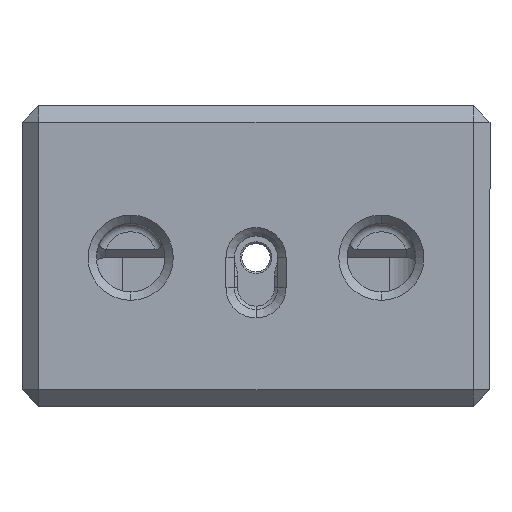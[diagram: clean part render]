
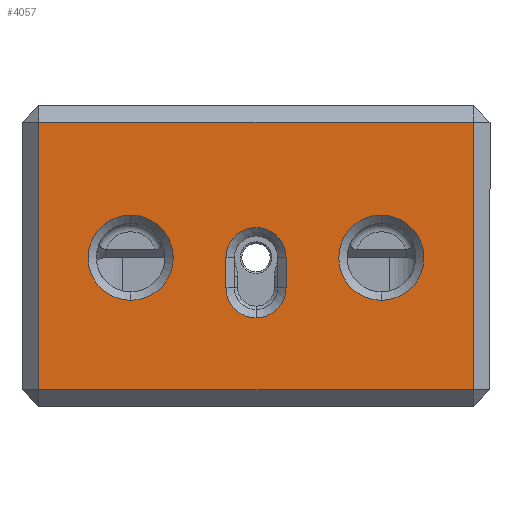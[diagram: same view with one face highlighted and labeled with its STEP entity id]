
A CAD part, front view. The second image highlights one B-rep face of the part: STEP entity #4057.
In plain terms, the highlighted planar face has unit normal (0, -1, 0).
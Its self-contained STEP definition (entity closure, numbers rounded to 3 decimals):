
#6 = DIRECTION ( 'NONE',  ( -1., 0., 0. ) ) ;
#51 = ORIENTED_EDGE ( 'NONE', *, *, #196, .T. ) ;
#55 = EDGE_CURVE ( 'NONE', #3820, #4088, #3429, .T. ) ;
#95 = VERTEX_POINT ( 'NONE', #1139 ) ;
#176 = VECTOR ( 'NONE', #373, 1000. ) ;
#194 = EDGE_LOOP ( 'NONE', ( #3144, #4048 ) ) ;
#196 = EDGE_CURVE ( 'NONE', #1790, #1420, #542, .T. ) ;
#217 = DIRECTION ( 'NONE',  ( 0., 0., 1. ) ) ;
#273 = FACE_BOUND ( 'NONE', #194, .T. ) ;
#336 = CARTESIAN_POINT ( 'NONE',  ( 0., -48., 0.9 ) ) ;
#352 = CARTESIAN_POINT ( 'NONE',  ( -14., -48., 9. ) ) ;
#373 = DIRECTION ( 'NONE',  ( 0., 0., -1. ) ) ;
#374 = DIRECTION ( 'NONE',  ( 0., 1., 0. ) ) ;
#428 = CIRCLE ( 'NONE', #3109, 1.8 ) ;
#445 = CARTESIAN_POINT ( 'NONE',  ( 14., -48., -7. ) ) ;
#479 = LINE ( 'NONE', #2540, #1974 ) ;
#542 = LINE ( 'NONE', #1858, #1356 ) ;
#665 = DIRECTION ( 'NONE',  ( 0., 0., -1. ) ) ;
#671 = AXIS2_PLACEMENT_3D ( 'NONE', #1004, #2056, #720 ) ;
#707 = DIRECTION ( 'NONE',  ( 0., 0., -1. ) ) ;
#720 = DIRECTION ( 'NONE',  ( 0., 0., -1. ) ) ;
#807 = DIRECTION ( 'NONE',  ( 1., 0., 0. ) ) ;
#821 = LINE ( 'NONE', #352, #2616 ) ;
#822 = EDGE_LOOP ( 'NONE', ( #2253, #1437 ) ) ;
#887 = DIRECTION ( 'NONE',  ( 0., 0., 1. ) ) ;
#944 = DIRECTION ( 'NONE',  ( 0., 0., -1. ) ) ;
#997 = AXIS2_PLACEMENT_3D ( 'NONE', #2736, #2357, #3093 ) ;
#1004 = CARTESIAN_POINT ( 'NONE',  ( 7.5, -48., 0.9 ) ) ;
#1072 = VECTOR ( 'NONE', #4095, 1000. ) ;
#1116 = VERTEX_POINT ( 'NONE', #3007 ) ;
#1139 = CARTESIAN_POINT ( 'NONE',  ( 1.8, -48., -0.9 ) ) ;
#1258 = VERTEX_POINT ( 'NONE', #1648 ) ;
#1308 = VECTOR ( 'NONE', #807, 1000. ) ;
#1326 = VERTEX_POINT ( 'NONE', #2930 ) ;
#1341 = CARTESIAN_POINT ( 'NONE',  ( 1.8, -48., 0. ) ) ;
#1356 = VECTOR ( 'NONE', #217, 1000. ) ;
#1368 = CARTESIAN_POINT ( 'NONE',  ( -7.5, -48., 0.9 ) ) ;
#1401 = EDGE_CURVE ( 'NONE', #1258, #2928, #3688, .T. ) ;
#1420 = VERTEX_POINT ( 'NONE', #2327 ) ;
#1437 = ORIENTED_EDGE ( 'NONE', *, *, #1401, .T. ) ;
#1448 = AXIS2_PLACEMENT_3D ( 'NONE', #1995, #2322, #2337 ) ;
#1581 = AXIS2_PLACEMENT_3D ( 'NONE', #1368, #374, #707 ) ;
#1586 = ORIENTED_EDGE ( 'NONE', *, *, #2522, .T. ) ;
#1648 = CARTESIAN_POINT ( 'NONE',  ( 7.5, -48., 3.45 ) ) ;
#1690 = DIRECTION ( 'NONE',  ( 0., 1., 0. ) ) ;
#1691 = PLANE ( 'NONE',  #1448 ) ;
#1714 = FACE_BOUND ( 'NONE', #3984, .T. ) ;
#1790 = VERTEX_POINT ( 'NONE', #2943 ) ;
#1820 = FACE_OUTER_BOUND ( 'NONE', #4156, .T. ) ;
#1827 = FACE_BOUND ( 'NONE', #822, .T. ) ;
#1858 = CARTESIAN_POINT ( 'NONE',  ( -1.8, -48., 0. ) ) ;
#1974 = VECTOR ( 'NONE', #887, 1000. ) ;
#1995 = CARTESIAN_POINT ( 'NONE',  ( 0., -48., 0. ) ) ;
#2014 = CIRCLE ( 'NONE', #2342, 2.55 ) ;
#2056 = DIRECTION ( 'NONE',  ( 0., 1., 0. ) ) ;
#2128 = AXIS2_PLACEMENT_3D ( 'NONE', #2789, #2687, #2368 ) ;
#2141 = CARTESIAN_POINT ( 'NONE',  ( -7.5, -48., 3.45 ) ) ;
#2181 = CIRCLE ( 'NONE', #2128, 2.55 ) ;
#2204 = DIRECTION ( 'NONE',  ( 0., 0., -1. ) ) ;
#2253 = ORIENTED_EDGE ( 'NONE', *, *, #3451, .T. ) ;
#2322 = DIRECTION ( 'NONE',  ( 0., -1., 0. ) ) ;
#2327 = CARTESIAN_POINT ( 'NONE',  ( -1.8, -48., 0.9 ) ) ;
#2328 = EDGE_CURVE ( 'NONE', #2651, #2989, #2014, .T. ) ;
#2337 = DIRECTION ( 'NONE',  ( 0., 0., -1. ) ) ;
#2342 = AXIS2_PLACEMENT_3D ( 'NONE', #2572, #2538, #944 ) ;
#2357 = DIRECTION ( 'NONE',  ( 0., 1., 0. ) ) ;
#2368 = DIRECTION ( 'NONE',  ( 0., 0., -1. ) ) ;
#2389 = EDGE_CURVE ( 'NONE', #2989, #2651, #4284, .T. ) ;
#2445 = CARTESIAN_POINT ( 'NONE',  ( 0., -48., -2.7 ) ) ;
#2522 = EDGE_CURVE ( 'NONE', #4313, #1790, #4061, .T. ) ;
#2535 = LINE ( 'NONE', #1341, #176 ) ;
#2538 = DIRECTION ( 'NONE',  ( 0., 1., 0. ) ) ;
#2540 = CARTESIAN_POINT ( 'NONE',  ( 13., -48., 10. ) ) ;
#2572 = CARTESIAN_POINT ( 'NONE',  ( -7.5, -48., 0.9 ) ) ;
#2616 = VECTOR ( 'NONE', #6, 1000. ) ;
#2619 = ORIENTED_EDGE ( 'NONE', *, *, #3154, .T. ) ;
#2651 = VERTEX_POINT ( 'NONE', #2141 ) ;
#2687 = DIRECTION ( 'NONE',  ( 0., 1., 0. ) ) ;
#2736 = CARTESIAN_POINT ( 'NONE',  ( 0., -48., -0.9 ) ) ;
#2789 = CARTESIAN_POINT ( 'NONE',  ( 7.5, -48., 0.9 ) ) ;
#2791 = EDGE_CURVE ( 'NONE', #1420, #1116, #3841, .T. ) ;
#2823 = EDGE_CURVE ( 'NONE', #1326, #3338, #821, .T. ) ;
#2878 = ORIENTED_EDGE ( 'NONE', *, *, #3540, .T. ) ;
#2893 = CARTESIAN_POINT ( 'NONE',  ( 0., -48., -0.9 ) ) ;
#2928 = VERTEX_POINT ( 'NONE', #3351 ) ;
#2930 = CARTESIAN_POINT ( 'NONE',  ( 13., -48., 9. ) ) ;
#2943 = CARTESIAN_POINT ( 'NONE',  ( -1.8, -48., -0.9 ) ) ;
#2944 = ORIENTED_EDGE ( 'NONE', *, *, #2791, .T. ) ;
#2976 = EDGE_CURVE ( 'NONE', #3338, #3820, #4174, .T. ) ;
#2989 = VERTEX_POINT ( 'NONE', #3708 ) ;
#3007 = CARTESIAN_POINT ( 'NONE',  ( 1.8, -48., 0.9 ) ) ;
#3013 = CARTESIAN_POINT ( 'NONE',  ( -13., -48., -7. ) ) ;
#3038 = CARTESIAN_POINT ( 'NONE',  ( 13., -48., -7. ) ) ;
#3093 = DIRECTION ( 'NONE',  ( 0., 0., -1. ) ) ;
#3109 = AXIS2_PLACEMENT_3D ( 'NONE', #2893, #3909, #2204 ) ;
#3144 = ORIENTED_EDGE ( 'NONE', *, *, #2389, .T. ) ;
#3154 = EDGE_CURVE ( 'NONE', #1116, #95, #2535, .T. ) ;
#3296 = ORIENTED_EDGE ( 'NONE', *, *, #2823, .T. ) ;
#3338 = VERTEX_POINT ( 'NONE', #3455 ) ;
#3351 = CARTESIAN_POINT ( 'NONE',  ( 7.5, -48., -1.65 ) ) ;
#3379 = CARTESIAN_POINT ( 'NONE',  ( -13., -48., -8. ) ) ;
#3387 = ORIENTED_EDGE ( 'NONE', *, *, #3627, .T. ) ;
#3429 = LINE ( 'NONE', #445, #1308 ) ;
#3451 = EDGE_CURVE ( 'NONE', #2928, #1258, #2181, .T. ) ;
#3455 = CARTESIAN_POINT ( 'NONE',  ( -13., -48., 9. ) ) ;
#3540 = EDGE_CURVE ( 'NONE', #4088, #1326, #479, .T. ) ;
#3627 = EDGE_CURVE ( 'NONE', #95, #4313, #428, .T. ) ;
#3651 = ORIENTED_EDGE ( 'NONE', *, *, #2976, .T. ) ;
#3688 = CIRCLE ( 'NONE', #671, 2.55 ) ;
#3708 = CARTESIAN_POINT ( 'NONE',  ( -7.5, -48., -1.65 ) ) ;
#3820 = VERTEX_POINT ( 'NONE', #3013 ) ;
#3841 = CIRCLE ( 'NONE', #3982, 1.8 ) ;
#3909 = DIRECTION ( 'NONE',  ( 0., 1., 0. ) ) ;
#3982 = AXIS2_PLACEMENT_3D ( 'NONE', #336, #1690, #665 ) ;
#3984 = EDGE_LOOP ( 'NONE', ( #51, #2944, #2619, #3387, #1586 ) ) ;
#4048 = ORIENTED_EDGE ( 'NONE', *, *, #2328, .T. ) ;
#4057 = ADVANCED_FACE ( 'NONE', ( #1820, #273, #1827, #1714 ), #1691, .T. ) ;
#4061 = CIRCLE ( 'NONE', #997, 1.8 ) ;
#4088 = VERTEX_POINT ( 'NONE', #3038 ) ;
#4095 = DIRECTION ( 'NONE',  ( 0., 0., -1. ) ) ;
#4156 = EDGE_LOOP ( 'NONE', ( #2878, #3296, #3651, #4264 ) ) ;
#4174 = LINE ( 'NONE', #3379, #1072 ) ;
#4264 = ORIENTED_EDGE ( 'NONE', *, *, #55, .T. ) ;
#4284 = CIRCLE ( 'NONE', #1581, 2.55 ) ;
#4313 = VERTEX_POINT ( 'NONE', #2445 ) ;
